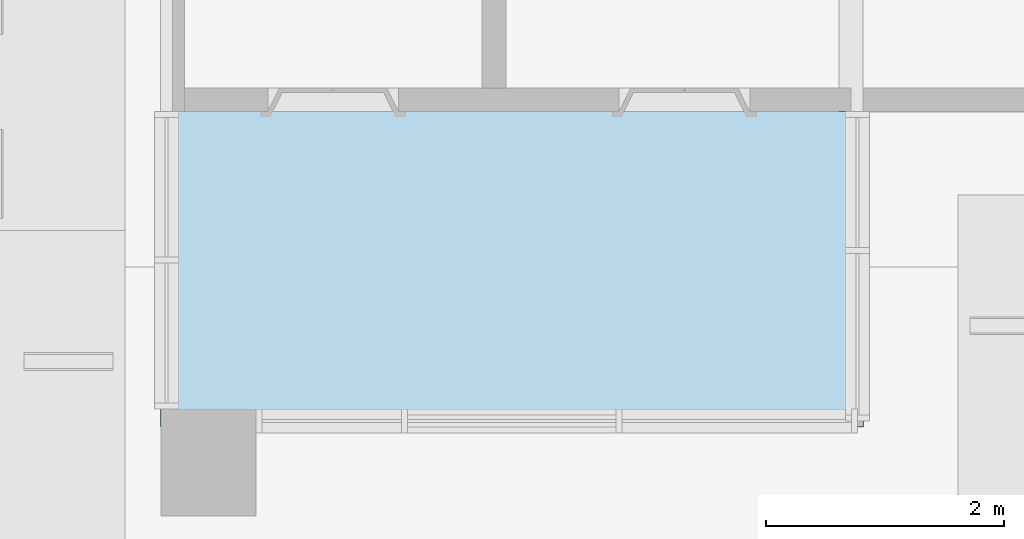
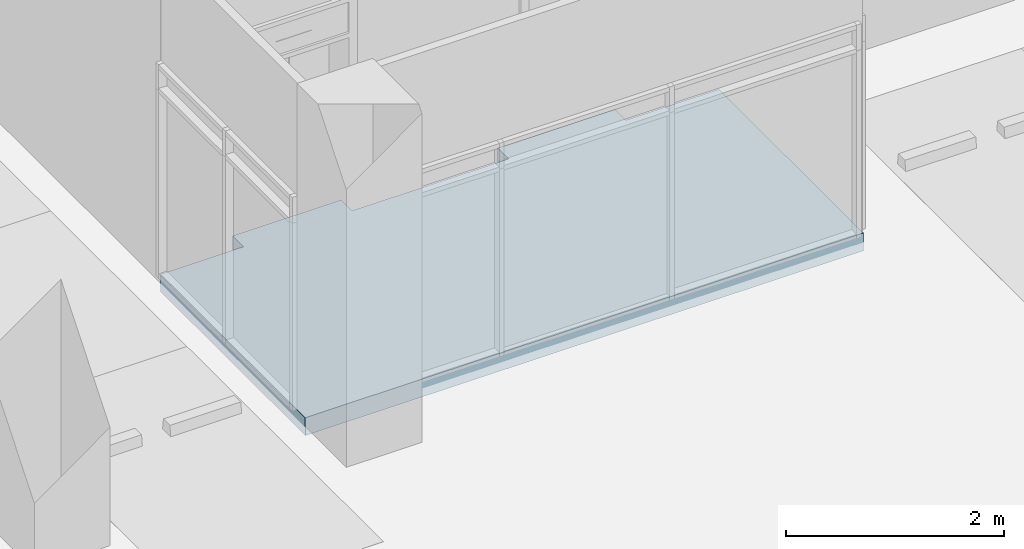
# One storey, part 19 of 30: 1 slab.
"""IFC2X3 building model written with IfcOpenShell, lengths in millimetres."""

from ifc_helpers import new_model, entity, si_unit, converted_unit, derived_unit, direction, frame, origin, place, context, subcontext, project, spatial, faceted_brep, material, material_list, type_object, element, save


model = new_model("IFC2X3")

# Units and contexts
model_context = context("Model", 3, precision=0.01, world=origin(), true_north=direction((6.123031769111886e-17, 1.0)))
body_context = subcontext(model_context, "Body", "Model", "MODEL_VIEW")
ifc_project = project(units=[si_unit("LENGTHUNIT", "METRE", prefix="MILLI"), si_unit("AREAUNIT", "SQUARE_METRE"), si_unit("VOLUMEUNIT", "CUBIC_METRE"), converted_unit("PLANEANGLEUNIT", "DEGREE", entity("IfcRatioMeasure", 0.017453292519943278), si_unit("PLANEANGLEUNIT", "RADIAN"), dimensions=[0, 0, 0, 0, 0, 0, 0]), si_unit("MASSUNIT", "GRAM", prefix="KILO"), derived_unit("MASSDENSITYUNIT", [(si_unit("MASSUNIT", "GRAM", prefix="KILO"), 1), (si_unit("LENGTHUNIT", "METRE"), -3)]), derived_unit("MOMENTOFINERTIAUNIT", [(si_unit("LENGTHUNIT", "METRE"), 4)]), si_unit("TIMEUNIT", "SECOND"), si_unit("FREQUENCYUNIT", "HERTZ"), si_unit("THERMODYNAMICTEMPERATUREUNIT", "DEGREE_CELSIUS"), derived_unit("THERMALTRANSMITTANCEUNIT", [(si_unit("MASSUNIT", "GRAM", prefix="KILO"), 1), (si_unit("THERMODYNAMICTEMPERATUREUNIT", "KELVIN"), -1), (si_unit("TIMEUNIT", "SECOND"), -3)]), derived_unit("VOLUMETRICFLOWRATEUNIT", [(si_unit("LENGTHUNIT", "METRE"), 3), (si_unit("TIMEUNIT", "SECOND"), -1)]), derived_unit("MASSFLOWRATEUNIT", [(si_unit("MASSUNIT", "GRAM", prefix="KILO"), 1), (si_unit("TIMEUNIT", "SECOND"), -1)]), derived_unit("ROTATIONALFREQUENCYUNIT", [(si_unit("TIMEUNIT", "SECOND"), -1)]), si_unit("ELECTRICCURRENTUNIT", "AMPERE"), si_unit("ELECTRICVOLTAGEUNIT", "VOLT"), si_unit("POWERUNIT", "WATT"), si_unit("FORCEUNIT", "NEWTON", prefix="KILO"), si_unit("ILLUMINANCEUNIT", "LUX"), si_unit("LUMINOUSFLUXUNIT", "LUMEN"), si_unit("LUMINOUSINTENSITYUNIT", "CANDELA"), derived_unit("USERDEFINED", [(si_unit("MASSUNIT", "GRAM", prefix="KILO"), -1), (si_unit("LENGTHUNIT", "METRE"), -2), (si_unit("TIMEUNIT", "SECOND"), 3), (si_unit("LUMINOUSFLUXUNIT", "LUMEN"), 1)]), derived_unit("SOUNDPOWERUNIT", [(si_unit("MASSUNIT", "GRAM", prefix="KILO"), 1), (si_unit("LENGTHUNIT", "METRE"), 2), (si_unit("TIMEUNIT", "SECOND"), -3)]), derived_unit("SOUNDPRESSUREUNIT", [(si_unit("MASSUNIT", "GRAM", prefix="KILO"), 1), (si_unit("LENGTHUNIT", "METRE"), -1), (si_unit("TIMEUNIT", "SECOND"), -2)]), derived_unit("LINEARVELOCITYUNIT", [(si_unit("LENGTHUNIT", "METRE"), 1), (si_unit("TIMEUNIT", "SECOND"), -1)]), si_unit("PRESSUREUNIT", "PASCAL"), derived_unit("USERDEFINED", [(si_unit("LENGTHUNIT", "METRE"), -2), (si_unit("MASSUNIT", "GRAM", prefix="KILO"), 1), (si_unit("TIMEUNIT", "SECOND"), -2)]), derived_unit("LINEARFORCEUNIT", [(si_unit("MASSUNIT", "GRAM", prefix="KILO"), 1), (si_unit("LENGTHUNIT", "METRE"), 1), (si_unit("TIMEUNIT", "SECOND"), -2), (si_unit("LENGTHUNIT", "METRE"), -1)]), derived_unit("PLANARFORCEUNIT", [(si_unit("MASSUNIT", "GRAM", prefix="KILO"), 1), (si_unit("LENGTHUNIT", "METRE"), 1), (si_unit("TIMEUNIT", "SECOND"), -2), (si_unit("LENGTHUNIT", "METRE"), -2)])], contexts=[model_context])

# Site, building, storey
site_placement = place(None, frame((-14167.972527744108, -657.2125860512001, 0.0)))
site = spatial("IfcSite", under=ifc_project, at=site_placement, Name="Default", CompositionType="ELEMENT")
building_placement = place(site_placement, origin())
building = spatial("IfcBuilding", under=site, at=building_placement, Name="Sample Building", CompositionType="ELEMENT")
storey_placement = place(building_placement, frame((0.0, 0.0, -10100.0)))
storey = spatial("IfcBuildingStorey", under=building, at=storey_placement, Name="지하2층", CompositionType="ELEMENT", Elevation=-10100.0)

# Slab
ifc_material_1 = material(Name="SL322-대리석물갈기 바닥 (바탕60mm, 마감20mm)")
ifc_material_2 = material(Name="SL582-무근콘크리트 바닥 100mm")
ifc_material_3 = material(Name="SL789-와이어매쉬 #8 150x150")
ifc_material_4 = material(Name="SL553-보호모르타르 바닥 20mm")
ifc_material_5 = material(Name="SL541-침투성방수 바닥")
ifc_material_6 = material(Name="SL555-쇠흙손마감 바닥 (콘크리트면)")
ifc_material_list = material_list([ifc_material_1, ifc_material_2, ifc_material_3, ifc_material_4, ifc_material_5, ifc_material_6])
slab_type = type_object("IfcSlabType", Name="바닥:A1-15-09B-쇠흙손마감, 침투성방수(2차), 시멘트모르타르(보호용), 와이어매쉬(#8 150x150), 무근콘크리트, 대리석(물갈기) (200mm)", PredefinedType="FLOOR")
slab_placement = place(storey_placement, origin())
element("IfcSlab", 1, at=slab_placement, inside=storey, type_object=slab_type, material=ifc_material_list, Name="바닥:A1-15-09B-쇠흙손마감, 침투성방수(2차), 시멘트모르타르(보호용), 와이어매쉬(#8 150x150), 무근콘크리트, 대리석(물갈기) (200mm)", ObjectType="바닥:A1-15-09B-쇠흙손마감, 침투성방수(2차), 시멘트모르타르(보호용), 와이어매쉬(#8 150x150), 무근콘크리트, 대리석(물갈기) (200mm)", PredefinedType="FLOOR", context=body_context, shape_type="Brep", body=[
    faceted_brep([(34988.075968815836, 15557.212586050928, 0.0), (35972.97249113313, 15557.212586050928, 0.0), (35972.97249113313, 12907.212586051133, 0.0), (30067.972463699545, 12907.212586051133, 0.0), (30067.972463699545, 15557.212586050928, 0.0), (30942.972491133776, 15557.212586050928, 0.0), (30942.972491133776, 15757.212586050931, 0.0), (32092.972491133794, 15757.212586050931, 0.0), (32092.972491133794, 15557.212586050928, 0.0), (33747.869013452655, 15557.212586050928, 0.0), (33747.869013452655, 15757.212586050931, 0.0), (34988.075968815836, 15757.212586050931, 0.0), (35972.97249113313, 15557.212586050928, 200.0), (34988.075968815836, 15557.212586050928, 200.0), (34988.075968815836, 15757.212586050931, 200.0), (33747.869013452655, 15757.212586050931, 200.0), (33747.869013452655, 15557.212586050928, 200.0), (32092.972491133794, 15557.212586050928, 200.0), (32092.972491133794, 15757.212586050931, 200.0), (30942.972491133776, 15757.212586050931, 200.0), (30942.972491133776, 15557.212586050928, 200.0), (30066.125814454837, 15557.212586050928, 200.0), (30066.125814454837, 12907.212586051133, 200.0), (35972.97249113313, 12907.212586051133, 200.0), (35972.97249113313, 15557.212586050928, 100.0), (35972.97249113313, 12907.212586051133, 100.0), (30066.125814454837, 12907.212586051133, 100.0), (30067.972463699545, 12907.212586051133, 100.0), (30066.125814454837, 15557.212586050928, 100.0), (30067.97246369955, 15557.212586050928, 100.0)], [[[0, 1, 2, 3, 4, 5, 6, 7, 8, 9, 10, 11]], [[12, 13, 14, 15, 16, 17, 18, 19, 20, 21, 22, 23]], [[1, 0, 13, 12, 24]], [[2, 1, 24, 12, 23, 25]], [[23, 22, 26, 27, 3, 2, 25]], [[22, 21, 28, 26]], [[21, 20, 5, 4, 29, 28]], [[6, 5, 20, 19]], [[7, 6, 19, 18]], [[8, 7, 18, 17]], [[9, 8, 17, 16]], [[10, 9, 16, 15]], [[11, 10, 15, 14]], [[0, 11, 14, 13]], [[29, 27, 26, 28]], [[27, 29, 4, 3]]]),
])

save(model, "model.ifc")
